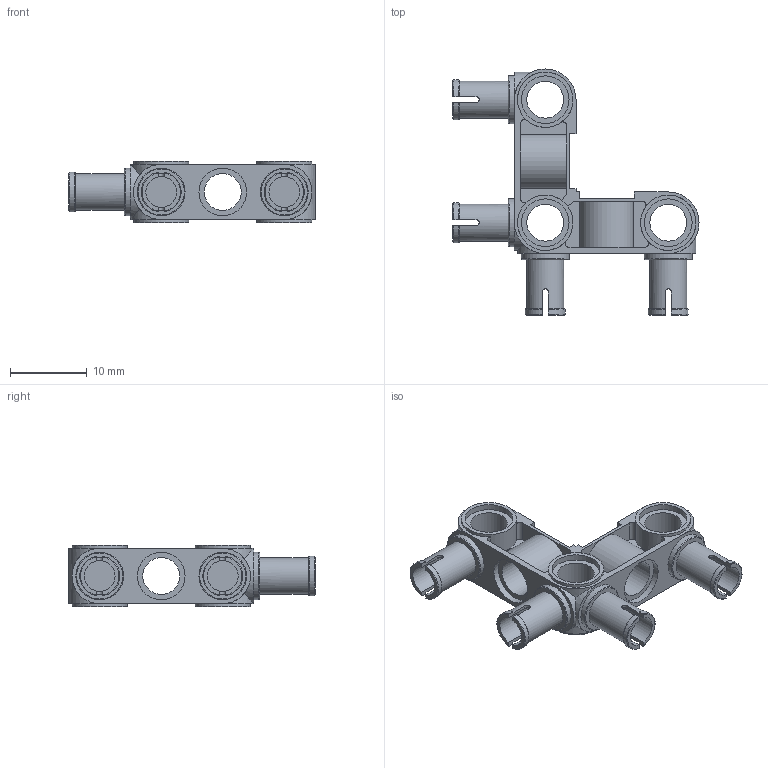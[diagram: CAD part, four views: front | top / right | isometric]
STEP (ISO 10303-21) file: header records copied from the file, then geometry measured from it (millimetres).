
FILE_DESCRIPTION(/* description */ ('Unknown'),/* implementation_level */ '2;1');
FILE_NAME(/* name */ 'ClGray_4296059_AVV',/* time_stamp */ '2025-07-21T23:55:04+02:00',/* author */ ('Unknown'),/* organization */ ('Unknown'),/* preprocessor_version */ 'ST-DEVELOPER v19.4',/* originating_system */ 'Solid Edge',/* authorisation */ 'Unknown');
FILE_SCHEMA (('AUTOMOTIVE_DESIGN {1 0 10303 214 3 1 1}'));
Length unit declared in the file: millimetre
Products named in the file (1): ClGray_4296059_AVV
Bounding box: 32 x 32 x 8 mm (x, y, z)
Volume: 1390.2 mm3; surface area: 2944.9 mm2
Topology: 1 solids, 1 shells, 187 faces, 485 edges, 318 vertices
Faces by surface type: plane 96, cylinder 71, torus 20
Full cylindrical faces by diameter (mm): 4 x4, 4.8 x9, 6.2 x12, 7.2 x6
Entity records: 5543 total; most frequent: CARTESIAN_POINT 1120, DIRECTION 921, ORIENTED_EDGE 864, EDGE_CURVE 432, AXIS2_PLACEMENT_3D 355, VERTEX_POINT 300, EDGE_LOOP 250, FACE_BOUND 250
